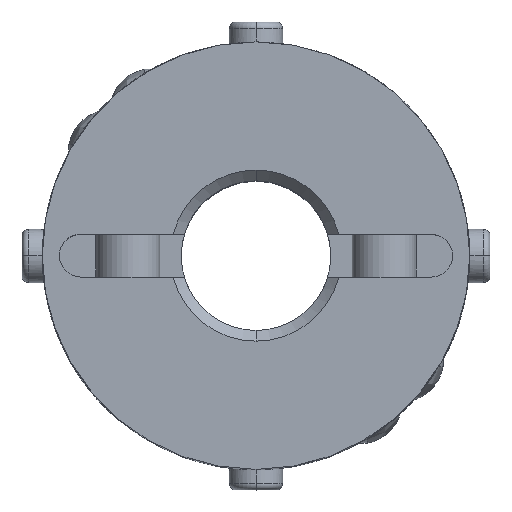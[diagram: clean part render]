
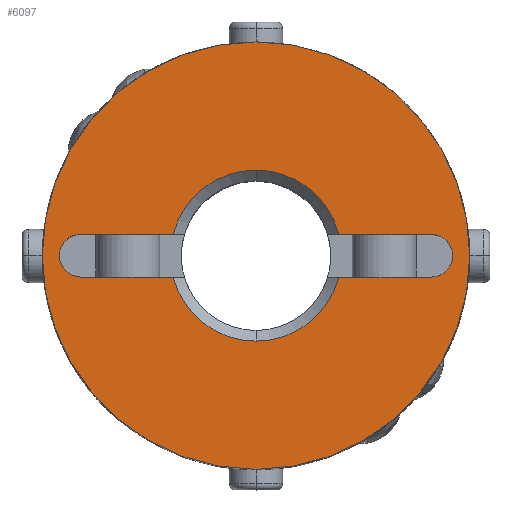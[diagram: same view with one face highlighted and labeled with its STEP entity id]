
A CAD part, top view. The second image highlights one B-rep face of the part: STEP entity #6097.
In plain terms, the highlighted planar face has unit normal (0, 0, 1).
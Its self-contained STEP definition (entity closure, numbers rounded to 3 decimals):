
#2430=CARTESIAN_POINT('',(8.907,0.707,10.0));
#2431=VERTEX_POINT('',#2430);
#2447=CARTESIAN_POINT('',(8.2,-1.,10.0));
#2448=VERTEX_POINT('',#2447);
#2455=CARTESIAN_POINT('',(8.2,0.,10.0));
#2456=DIRECTION('',(0.,0.,1.0));
#2457=DIRECTION('',(0.707,-0.707,0.));
#2458=AXIS2_PLACEMENT_3D('',#2455,#2456,#2457);
#2459=CIRCLE('',#2458,1.);
#2460=EDGE_CURVE('',#2448,#2431,#2459,.T.);
#2472=CARTESIAN_POINT('',(-8.907,-0.707,10.0));
#2473=VERTEX_POINT('',#2472);
#2489=CARTESIAN_POINT('',(-8.2,1.,10.0));
#2490=VERTEX_POINT('',#2489);
#2497=CARTESIAN_POINT('',(-8.2,0.,10.0));
#2498=DIRECTION('',(0.,0.,1.0));
#2499=DIRECTION('',(-0.707,0.707,0.));
#2500=AXIS2_PLACEMENT_3D('',#2497,#2498,#2499);
#2501=CIRCLE('',#2500,1.0);
#2502=EDGE_CURVE('',#2490,#2473,#2501,.T.);
#2512=CARTESIAN_POINT('',(0.,4.0,10.0));
#2513=VERTEX_POINT('',#2512);
#2521=CARTESIAN_POINT('',(3.873,1.,10.0));
#2522=VERTEX_POINT('',#2521);
#2536=CARTESIAN_POINT('',(0.,0.,10.0));
#2537=DIRECTION('',(0.0,0.0,1.0));
#2538=DIRECTION('',(0.0,1.0,0.0));
#2539=AXIS2_PLACEMENT_3D('',#2536,#2537,#2538);
#2540=CIRCLE('',#2539,4.0);
#2541=EDGE_CURVE('',#2522,#2513,#2540,.T.);
#2553=CARTESIAN_POINT('',(0.,-4.0,10.0));
#2554=VERTEX_POINT('',#2553);
#2570=CARTESIAN_POINT('',(-3.873,-1.,10.0));
#2571=VERTEX_POINT('',#2570);
#2585=CARTESIAN_POINT('',(0.,0.,10.0));
#2586=DIRECTION('',(0.0,0.0,1.0));
#2587=DIRECTION('',(0.0,-1.0,0.0));
#2588=AXIS2_PLACEMENT_3D('',#2585,#2586,#2587);
#2589=CIRCLE('',#2588,4.0);
#2590=EDGE_CURVE('',#2571,#2554,#2589,.T.);
#3156=CARTESIAN_POINT('',(0.,10.0,10.0));
#3157=VERTEX_POINT('',#3156);
#3164=CARTESIAN_POINT('',(0.,-10.0,10.0));
#3165=VERTEX_POINT('',#3164);
#3166=CARTESIAN_POINT('',(0.,0.,10.0));
#3167=DIRECTION('',(0.0,0.0,-1.0));
#3168=DIRECTION('',(0.0,-1.0,0.0));
#3169=AXIS2_PLACEMENT_3D('',#3166,#3167,#3168);
#3170=CIRCLE('',#3169,10.0);
#3171=EDGE_CURVE('',#3157,#3165,#3170,.T.);
#5383=CARTESIAN_POINT('',(0.,0.,10.0));
#5384=DIRECTION('',(0.0,0.0,-1.0));
#5385=DIRECTION('',(0.0,-1.0,0.0));
#5386=AXIS2_PLACEMENT_3D('',#5383,#5384,#5385);
#5387=CIRCLE('',#5386,10.0);
#5388=EDGE_CURVE('',#3165,#3157,#5387,.T.);
#5893=CARTESIAN_POINT('',(-3.873,1.,10.0));
#5894=VERTEX_POINT('',#5893);
#5908=CARTESIAN_POINT('',(-8.2,1.,10.0));
#5909=DIRECTION('',(1.0,0.0,0.0));
#5910=VECTOR('',#5909,4.327);
#5911=LINE('',#5908,#5910);
#5912=EDGE_CURVE('',#2490,#5894,#5911,.T.);
#5971=CARTESIAN_POINT('',(-8.2,-1.,10.0));
#5972=VERTEX_POINT('',#5971);
#5979=CARTESIAN_POINT('',(-3.873,-1.,10.0));
#5980=DIRECTION('',(-1.0,0.0,0.0));
#5981=VECTOR('',#5980,4.327);
#5982=LINE('',#5979,#5981);
#5983=EDGE_CURVE('',#2571,#5972,#5982,.T.);
#6000=CARTESIAN_POINT('',(3.873,-1.,10.0));
#6001=VERTEX_POINT('',#6000);
#6002=CARTESIAN_POINT('',(0.,0.,10.0));
#6003=DIRECTION('',(0.0,0.0,1.0));
#6004=DIRECTION('',(0.0,-1.0,0.0));
#6005=AXIS2_PLACEMENT_3D('',#6002,#6003,#6004);
#6006=CIRCLE('',#6005,4.0);
#6007=EDGE_CURVE('',#2554,#6001,#6006,.T.);
#6034=CARTESIAN_POINT('',(8.2,-1.,10.0));
#6035=DIRECTION('',(-1.0,0.0,0.0));
#6036=VECTOR('',#6035,4.327);
#6037=LINE('',#6034,#6036);
#6038=EDGE_CURVE('',#2448,#6001,#6037,.T.);
#6049=CARTESIAN_POINT('',(0.,-0.909,10.0));
#6050=DIRECTION('',(0.0,0.0,1.0));
#6051=DIRECTION('',(0.0,-1.0,0.0));
#6052=AXIS2_PLACEMENT_3D('',#6049,#6050,#6051);
#6053=PLANE('',#6052);
#6054=ORIENTED_EDGE('',*,*,#5388,.F.);
#6055=ORIENTED_EDGE('',*,*,#3171,.F.);
#6056=EDGE_LOOP('',(#6054,#6055));
#6057=FACE_OUTER_BOUND('',#6056,.T.);
#6058=ORIENTED_EDGE('',*,*,#2590,.F.);
#6059=ORIENTED_EDGE('',*,*,#5983,.T.);
#6060=CARTESIAN_POINT('',(-8.2,0.,10.0));
#6061=DIRECTION('',(0.,0.,1.0));
#6062=DIRECTION('',(-0.707,0.707,0.));
#6063=AXIS2_PLACEMENT_3D('',#6060,#6061,#6062);
#6064=CIRCLE('',#6063,1.0);
#6065=EDGE_CURVE('',#2473,#5972,#6064,.T.);
#6066=ORIENTED_EDGE('',*,*,#6065,.F.);
#6067=ORIENTED_EDGE('',*,*,#2502,.F.);
#6068=ORIENTED_EDGE('',*,*,#5912,.T.);
#6069=CARTESIAN_POINT('',(0.,0.,10.0));
#6070=DIRECTION('',(0.0,0.0,1.0));
#6071=DIRECTION('',(0.0,1.0,0.0));
#6072=AXIS2_PLACEMENT_3D('',#6069,#6070,#6071);
#6073=CIRCLE('',#6072,4.0);
#6074=EDGE_CURVE('',#2513,#5894,#6073,.T.);
#6075=ORIENTED_EDGE('',*,*,#6074,.F.);
#6076=ORIENTED_EDGE('',*,*,#2541,.F.);
#6077=CARTESIAN_POINT('',(8.2,1.,10.0));
#6078=VERTEX_POINT('',#6077);
#6079=CARTESIAN_POINT('',(3.873,1.,10.0));
#6080=DIRECTION('',(1.0,0.0,0.0));
#6081=VECTOR('',#6080,4.327);
#6082=LINE('',#6079,#6081);
#6083=EDGE_CURVE('',#2522,#6078,#6082,.T.);
#6084=ORIENTED_EDGE('',*,*,#6083,.T.);
#6085=CARTESIAN_POINT('',(8.2,0.,10.0));
#6086=DIRECTION('',(0.,0.,1.0));
#6087=DIRECTION('',(0.707,-0.707,0.));
#6088=AXIS2_PLACEMENT_3D('',#6085,#6086,#6087);
#6089=CIRCLE('',#6088,1.);
#6090=EDGE_CURVE('',#2431,#6078,#6089,.T.);
#6091=ORIENTED_EDGE('',*,*,#6090,.F.);
#6092=ORIENTED_EDGE('',*,*,#2460,.F.);
#6093=ORIENTED_EDGE('',*,*,#6038,.T.);
#6094=ORIENTED_EDGE('',*,*,#6007,.F.);
#6095=EDGE_LOOP('',(#6058,#6059,#6066,#6067,#6068,#6075,#6076,#6084,#6091,#6092,#6093,#6094));
#6096=FACE_BOUND('',#6095,.T.);
#6097=ADVANCED_FACE('',(#6057,#6096),#6053,.T.);
